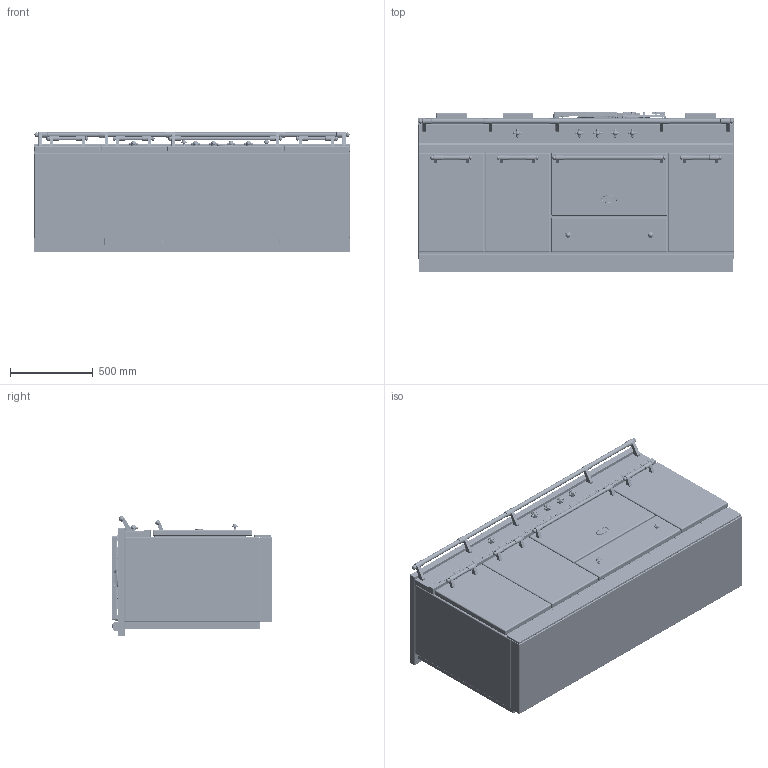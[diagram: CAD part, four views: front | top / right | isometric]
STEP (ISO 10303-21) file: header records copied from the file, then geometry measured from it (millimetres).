
FILE_DESCRIPTION((''),'2;1');
FILE_NAME('LCF1932G_ASM','2021-12-02T16:12:57',('r.avril'),(''),'CREO PARAMETRIC BY PTC INC, 2017260','CREO PARAMETRIC BY PTC INC, 2017260','');
FILE_SCHEMA(('AP203_CONFIGURATION_CONTROLLED_3D_DESIGN_OF_MECHANICAL_PARTS_AND_ASSEMBLIES_MIM_LF { 1 0 10303 403 2 1 2 }'));
Products named in the file (29): BASE_EXPORT_FONTENAY_LG1931G; 65650003; 65650004; 65650006; 65650007; 6531940; 6531941; 6531943; 65049009; 65650001; 6538399; 1931942; 65080022_AF0; 6531942_ASM; BASE_EXPORT_CITEAUX_LG1932G_ASM; TABLE_1900G_CLASSIQUE_3_FEUX; 5KW; 1_5KW; 3KW; 6537023; 65149005; 90000565_ASM; 65062008; 65062012; 90000549_ASM; CHEMINEE_2020_LG371_EXPORT_STEP; CHEMINEE_2020_LG182_EXPORT_STEP; TABLE_1900G_TRADITION_ASM; LCF1932G_ASM
Assembly tree (49 placements, depth 4):
  LCF1932G_ASM
    BASE_EXPORT_CITEAUX_LG1932G_ASM
      BASE_EXPORT_FONTENAY_LG1931G
      65650003
      65650004
      65650006
      65650007  x2
      6531940  x4
      6531941  x4
      6531943  x2
      65049009
      65650001
      6531942_ASM  x5
        6538399
        1931942
        65080022_AF0
    TABLE_1900G_TRADITION_ASM
      TABLE_1900G_CLASSIQUE_3_FEUX
      5KW
      1_5KW
      3KW
      90000565_ASM
        6537023
        65149005  x4
      90000549_ASM
        65062008
        65062012
        65149005  x4
      CHEMINEE_2020_LG371_EXPORT_STEP
      CHEMINEE_2020_LG182_EXPORT_STEP  x3
Bounding box: 1905 x 967 x 724 mm (x, y, z)
Volume: 698526880.3 mm3; surface area: 16618752.7 mm2
Topology: 61 solids, 76 shells, 8243 faces, 21419 edges, 13389 vertices
Faces by surface type: plane 4013, cylinder 2472, bspline 679, torus 384, sphere 292, cone 221, extrusion 162, revolution 20
Entity records: 244114 total; most frequent: CARTESIAN_POINT 63824, ORIENTED_EDGE 30336, DIRECTION 28278, EDGE_CURVE 15182, VECTOR 9902, LINE 9852, PRESENTATION_STYLE_ASSIGNMENT 9659, STYLED_ITEM 9636
